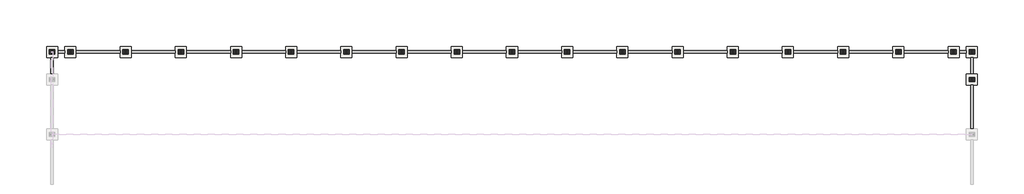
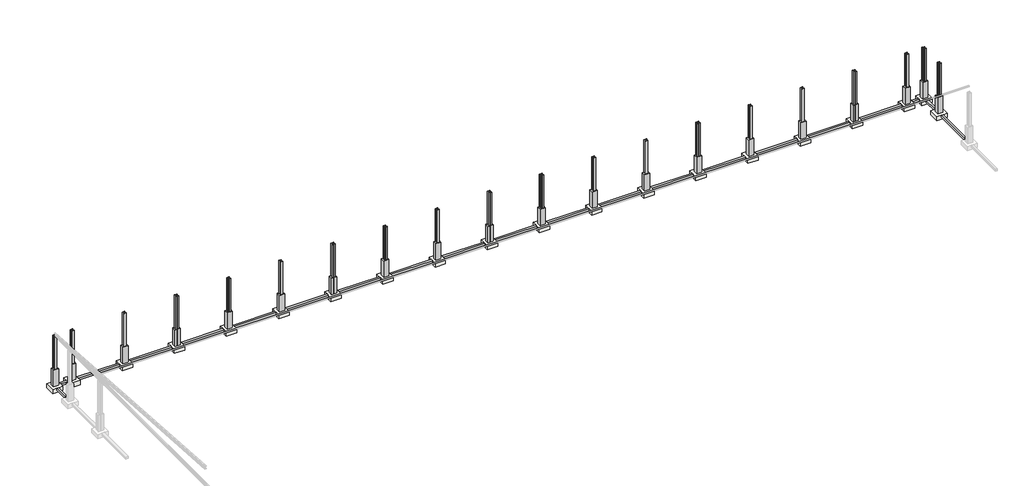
# One storey, part 4 of 4: 40 columns, 21 beams, 20 slabs.
"""IFC4 building model written with IfcOpenShell, lengths in millimetres."""

from ifc_helpers import new_model, si_unit, frame, origin, place, context, project, spatial, polyline, outline, extrude, faceted_brep, transform, mapped, element, save
from components import columns_rectangular_450x600mm_2512dfd8, uc_universal_columns_column_uc305x305x97_76abc542

model = new_model("IFC4")

# Units and contexts
model_context = context("Model", 3, world=origin())
ifc_project = project(units=[si_unit("LENGTHUNIT", "METRE", prefix="MILLI")], contexts=[model_context])

# Site, building, storey
site = spatial("IfcSite", under=ifc_project)
building = spatial("IfcBuilding", under=site)
storey = spatial("IfcBuildingStorey", under=building, Name="Kota 0", Elevation=0.0)

# Beams
placement = place(None, origin())
element("IfcBeam", 1, ObjectType="Concrete-Rectangular Beam : 16 x 32", at=placement, inside=storey, context=model_context, shape_type="SweptSolid", body=[
    extrude(outline(polyline([(90938.6750595, 3433.1828349), (91188.6750595, 3433.1828349), (91188.6750595, -1366.8171651), (90938.6750595, -1366.8171651), (90938.6750595, 3433.1828349)])), frame((0.0, 0.0, -250.0), z_axis=(0.0, 0.0, 1.0), x_axis=(1.0, 0.0, 0.0)), (0.0, 0.0, 1.0), 250.0),
])
element("IfcBeam", 2, ObjectType="Concrete-Rectangular Beam : 16 x 32", at=placement, inside=storey, context=model_context, shape_type="SweptSolid", body=[
    extrude(outline(polyline([(90938.6750595, 6433.1828349), (91188.6750595, 6433.1828349), (91188.6750595, 4633.1828349), (90938.6750595, 4633.1828349), (90938.6750595, 6433.1828349)])), frame((0.0, 0.0, -250.0), z_axis=(0.0, 0.0, 1.0), x_axis=(1.0, 0.0, 0.0)), (0.0, 0.0, 1.0), 250.0),
])
element("IfcBeam", 3, ObjectType="Concrete-Rectangular Beam : 16 x 32", at=placement, inside=storey, context=model_context, shape_type="SweptSolid", body=[
    extrude(outline(polyline([(89663.6750595, 6908.1828349), (89663.6750595, 7158.1828349), (90463.6750595, 7158.1828349), (90463.6750595, 6908.1828349), (89663.6750595, 6908.1828349)])), frame((0.0, 0.0, -250.0), z_axis=(0.0, 0.0, 1.0), x_axis=(1.0, 0.0, 0.0)), (0.0, 0.0, 1.0), 250.0),
])
element("IfcBeam", 4, ObjectType="Concrete-Rectangular Beam : 16 x 32", at=placement, inside=storey, context=model_context, shape_type="SweptSolid", body=[
    extrude(outline(polyline([(83663.6750595, 6908.1828349), (83663.6750595, 7158.1828349), (88463.6750595, 7158.1828349), (88463.6750595, 6908.1828349), (83663.6750595, 6908.1828349)])), frame((0.0, 0.0, -250.0), z_axis=(0.0, 0.0, 1.0), x_axis=(1.0, 0.0, 0.0)), (0.0, 0.0, 1.0), 250.0),
])
element("IfcBeam", 5, ObjectType="Concrete-Rectangular Beam : 16 x 32", at=placement, inside=storey, context=model_context, shape_type="SweptSolid", body=[
    extrude(outline(polyline([(77663.6750595, 6908.1828349), (77663.6750595, 7158.1828349), (82463.6750595, 7158.1828349), (82463.6750595, 6908.1828349), (77663.6750595, 6908.1828349)])), frame((0.0, 0.0, -250.0), z_axis=(0.0, 0.0, 1.0), x_axis=(1.0, 0.0, 0.0)), (0.0, 0.0, 1.0), 250.0),
])
element("IfcBeam", 6, ObjectType="Concrete-Rectangular Beam : 16 x 32", at=placement, inside=storey, context=model_context, shape_type="SweptSolid", body=[
    extrude(outline(polyline([(71663.6750595, 6908.1828349), (71663.6750595, 7158.1828349), (76463.6750595, 7158.1828349), (76463.6750595, 6908.1828349), (71663.6750595, 6908.1828349)])), frame((0.0, 0.0, -250.0), z_axis=(0.0, 0.0, 1.0), x_axis=(1.0, 0.0, 0.0)), (0.0, 0.0, 1.0), 250.0),
])
element("IfcBeam", 7, ObjectType="Concrete-Rectangular Beam : 16 x 32", at=placement, inside=storey, context=model_context, shape_type="SweptSolid", body=[
    extrude(outline(polyline([(65663.6750595, 6908.1828349), (65663.6750595, 7158.1828349), (70463.6750595, 7158.1828349), (70463.6750595, 6908.1828349), (65663.6750595, 6908.1828349)])), frame((0.0, 0.0, -250.0), z_axis=(0.0, 0.0, 1.0), x_axis=(1.0, 0.0, 0.0)), (0.0, 0.0, 1.0), 250.0),
])
element("IfcBeam", 8, ObjectType="Concrete-Rectangular Beam : 16 x 32", at=placement, inside=storey, context=model_context, shape_type="SweptSolid", body=[
    extrude(outline(polyline([(59663.6750595, 6908.1828349), (59663.6750595, 7158.1828349), (64463.6750595, 7158.1828349), (64463.6750595, 6908.1828349), (59663.6750595, 6908.1828349)])), frame((0.0, 0.0, -250.0), z_axis=(0.0, 0.0, 1.0), x_axis=(1.0, 0.0, 0.0)), (0.0, 0.0, 1.0), 250.0),
])
element("IfcBeam", 9, ObjectType="Concrete-Rectangular Beam : 16 x 32", at=placement, inside=storey, context=model_context, shape_type="SweptSolid", body=[
    extrude(outline(polyline([(53663.6750595, 6908.1828349), (53663.6750595, 7158.1828349), (58463.6750595, 7158.1828349), (58463.6750595, 6908.1828349), (53663.6750595, 6908.1828349)])), frame((0.0, 0.0, -250.0), z_axis=(0.0, 0.0, 1.0), x_axis=(1.0, 0.0, 0.0)), (0.0, 0.0, 1.0), 250.0),
])
element("IfcBeam", 10, ObjectType="Concrete-Rectangular Beam : 16 x 32", at=placement, inside=storey, context=model_context, shape_type="SweptSolid", body=[
    extrude(outline(polyline([(47663.6750595, 6908.1828349), (47663.6750595, 7158.1828349), (52463.6750595, 7158.1828349), (52463.6750595, 6908.1828349), (47663.6750595, 6908.1828349)])), frame((0.0, 0.0, -250.0), z_axis=(0.0, 0.0, 1.0), x_axis=(1.0, 0.0, 0.0)), (0.0, 0.0, 1.0), 250.0),
])
element("IfcBeam", 11, ObjectType="Concrete-Rectangular Beam : 16 x 32", at=placement, inside=storey, context=model_context, shape_type="SweptSolid", body=[
    extrude(outline(polyline([(41663.6750595, 6908.1828349), (41663.6750595, 7158.1828349), (46463.6750595, 7158.1828349), (46463.6750595, 6908.1828349), (41663.6750595, 6908.1828349)])), frame((0.0, 0.0, -250.0), z_axis=(0.0, 0.0, 1.0), x_axis=(1.0, 0.0, 0.0)), (0.0, 0.0, 1.0), 250.0),
])
element("IfcBeam", 12, ObjectType="Concrete-Rectangular Beam : 16 x 32", at=placement, inside=storey, context=model_context, shape_type="SweptSolid", body=[
    extrude(outline(polyline([(35663.6750595, 6908.1828349), (35663.6750595, 7158.1828349), (40463.6750595, 7158.1828349), (40463.6750595, 6908.1828349), (35663.6750595, 6908.1828349)])), frame((0.0, 0.0, -250.0), z_axis=(0.0, 0.0, 1.0), x_axis=(1.0, 0.0, 0.0)), (0.0, 0.0, 1.0), 250.0),
])
element("IfcBeam", 13, ObjectType="Concrete-Rectangular Beam : 16 x 32", at=placement, inside=storey, context=model_context, shape_type="SweptSolid", body=[
    extrude(outline(polyline([(29663.6750595, 6908.1828349), (29663.6750595, 7158.1828349), (34463.6750595, 7158.1828349), (34463.6750595, 6908.1828349), (29663.6750595, 6908.1828349)])), frame((0.0, 0.0, -250.0), z_axis=(0.0, 0.0, 1.0), x_axis=(1.0, 0.0, 0.0)), (0.0, 0.0, 1.0), 250.0),
])
element("IfcBeam", 14, ObjectType="Concrete-Rectangular Beam : 16 x 32", at=placement, inside=storey, context=model_context, shape_type="SweptSolid", body=[
    extrude(outline(polyline([(23663.6750595, 6908.1828349), (23663.6750595, 7158.1828349), (28463.6750595, 7158.1828349), (28463.6750595, 6908.1828349), (23663.6750595, 6908.1828349)])), frame((0.0, 0.0, -250.0), z_axis=(0.0, 0.0, 1.0), x_axis=(1.0, 0.0, 0.0)), (0.0, 0.0, 1.0), 250.0),
])
element("IfcBeam", 15, ObjectType="Concrete-Rectangular Beam : 16 x 32", at=placement, inside=storey, context=model_context, shape_type="SweptSolid", body=[
    extrude(outline(polyline([(17663.6750595, 6908.1828349), (17663.6750595, 7158.1828349), (22463.6750595, 7158.1828349), (22463.6750595, 6908.1828349), (17663.6750595, 6908.1828349)])), frame((0.0, 0.0, -250.0), z_axis=(0.0, 0.0, 1.0), x_axis=(1.0, 0.0, 0.0)), (0.0, 0.0, 1.0), 250.0),
])
element("IfcBeam", 16, ObjectType="Concrete-Rectangular Beam : 16 x 32", at=placement, inside=storey, context=model_context, shape_type="SweptSolid", body=[
    extrude(outline(polyline([(11663.6750595, 6908.1828349), (11663.6750595, 7158.1828349), (16463.6750595, 7158.1828349), (16463.6750595, 6908.1828349), (11663.6750595, 6908.1828349)])), frame((0.0, 0.0, -250.0), z_axis=(0.0, 0.0, 1.0), x_axis=(1.0, 0.0, 0.0)), (0.0, 0.0, 1.0), 250.0),
])
element("IfcBeam", 17, ObjectType="Concrete-Rectangular Beam : 16 x 32", at=placement, inside=storey, context=model_context, shape_type="SweptSolid", body=[
    extrude(outline(polyline([(5663.6750595, 6908.1828349), (5663.6750595, 7158.1828349), (10463.6750595, 7158.1828349), (10463.6750595, 6908.1828349), (5663.6750595, 6908.1828349)])), frame((0.0, 0.0, -250.0), z_axis=(0.0, 0.0, 1.0), x_axis=(1.0, 0.0, 0.0)), (0.0, 0.0, 1.0), 250.0),
])
element("IfcBeam", 18, ObjectType="Concrete-Rectangular Beam : 16 x 32", at=placement, inside=storey, context=model_context, shape_type="SweptSolid", body=[
    extrude(outline(polyline([(-336.3249405, 6908.1828349), (-336.3249405, 7158.1828349), (4463.6750595, 7158.1828349), (4463.6750595, 6908.1828349), (-336.3249405, 6908.1828349)])), frame((0.0, 0.0, -250.0), z_axis=(0.0, 0.0, 1.0), x_axis=(1.0, 0.0, 0.0)), (0.0, 0.0, 1.0), 250.0),
])
element("IfcBeam", 19, ObjectType="Concrete-Rectangular Beam : 16 x 32", at=placement, inside=storey, context=model_context, shape_type="SweptSolid", body=[
    extrude(outline(polyline([(-6336.3249405, 6908.1828349), (-6336.3249405, 7158.1828349), (-1536.3249405, 7158.1828349), (-1536.3249405, 6908.1828349), (-6336.3249405, 6908.1828349)])), frame((0.0, 0.0, -250.0), z_axis=(0.0, 0.0, 1.0), x_axis=(1.0, 0.0, 0.0)), (0.0, 0.0, 1.0), 250.0),
])
element("IfcBeam", 20, ObjectType="Concrete-Rectangular Beam : 16 x 32", at=placement, inside=storey, context=model_context, shape_type="SweptSolid", body=[
    extrude(outline(polyline([(-7536.3249405, 7158.1828349), (-7536.3249405, 6908.1828349), (-8336.3249405, 6908.1828349), (-8336.3249405, 7158.1828349), (-7536.3249405, 7158.1828349)])), frame((0.0, 0.0, -250.0), z_axis=(0.0, 0.0, 1.0), x_axis=(1.0, 0.0, 0.0)), (0.0, 0.0, 1.0), 250.0),
])
element("IfcBeam", 21, ObjectType="Concrete-Rectangular Beam : 16 x 32", at=placement, inside=storey, context=model_context, shape_type="SweptSolid", body=[
    extrude(outline(polyline([(-9061.3249405, 6433.1828349), (-8811.3249405, 6433.1828349), (-8811.3249405, 4633.1828349), (-9061.3249405, 4633.1828349), (-9061.3249405, 6433.1828349)])), frame((0.0, 0.0, -250.0), z_axis=(0.0, 0.0, 1.0), x_axis=(1.0, 0.0, 0.0)), (0.0, 0.0, 1.0), 250.0),
])

# Columns
columns_rectangular_450x600mm_shape = columns_rectangular_450x600mm_2512dfd8(model_context)
element("IfcColumn", 22, ObjectType="Columns_Rectangular : 450x600mm", at=placement, inside=storey, context=model_context, shape_type="MappedRepresentation", body=[
    mapped(columns_rectangular_450x600mm_shape, transform((-8936.3249405, 7033.1828349, 0.0), x_axis=(1.0, 0.0, 0.0), y_axis=(0.0, 1.0, 0.0), z_axis=(0.0, 0.0, 1.0))),
])
element("IfcColumn", 23, ObjectType="Columns_Rectangular : 450x600mm", at=placement, inside=storey, context=model_context, shape_type="MappedRepresentation", body=[
    mapped(columns_rectangular_450x600mm_shape, transform((-6936.3249405, 7033.1828349, 0.0), x_axis=(1.0, 0.0, 0.0), y_axis=(0.0, 1.0, 0.0), z_axis=(0.0, 0.0, 1.0))),
])
element("IfcColumn", 24, ObjectType="Columns_Rectangular : 450x600mm", at=placement, inside=storey, context=model_context, shape_type="MappedRepresentation", body=[
    mapped(columns_rectangular_450x600mm_shape, transform((-936.3249405, 7033.1828349, 0.0), x_axis=(1.0, 0.0, 0.0), y_axis=(0.0, 1.0, 0.0), z_axis=(0.0, 0.0, 1.0))),
])
element("IfcColumn", 25, ObjectType="Columns_Rectangular : 450x600mm", at=placement, inside=storey, context=model_context, shape_type="MappedRepresentation", body=[
    mapped(columns_rectangular_450x600mm_shape, transform((5063.6750595, 7033.1828349, 0.0), x_axis=(1.0, 0.0, 0.0), y_axis=(0.0, 1.0, 0.0), z_axis=(0.0, 0.0, 1.0))),
])
element("IfcColumn", 26, ObjectType="Columns_Rectangular : 450x600mm", at=placement, inside=storey, context=model_context, shape_type="MappedRepresentation", body=[
    mapped(columns_rectangular_450x600mm_shape, transform((11063.6750595, 7033.1828349, 0.0), x_axis=(1.0, 0.0, 0.0), y_axis=(0.0, 1.0, 0.0), z_axis=(0.0, 0.0, 1.0))),
])
element("IfcColumn", 27, ObjectType="Columns_Rectangular : 450x600mm", at=placement, inside=storey, context=model_context, shape_type="MappedRepresentation", body=[
    mapped(columns_rectangular_450x600mm_shape, transform((17063.6750595, 7033.1828349, 0.0), x_axis=(1.0, 0.0, 0.0), y_axis=(0.0, 1.0, 0.0), z_axis=(0.0, 0.0, 1.0))),
])
element("IfcColumn", 28, ObjectType="Columns_Rectangular : 450x600mm", at=placement, inside=storey, context=model_context, shape_type="MappedRepresentation", body=[
    mapped(columns_rectangular_450x600mm_shape, transform((23063.6750595, 7033.1828349, 0.0), x_axis=(1.0, 0.0, 0.0), y_axis=(0.0, 1.0, 0.0), z_axis=(0.0, 0.0, 1.0))),
])
element("IfcColumn", 29, ObjectType="Columns_Rectangular : 450x600mm", at=placement, inside=storey, context=model_context, shape_type="MappedRepresentation", body=[
    mapped(columns_rectangular_450x600mm_shape, transform((29063.6750595, 7033.1828349, 0.0), x_axis=(1.0, 0.0, 0.0), y_axis=(0.0, 1.0, 0.0), z_axis=(0.0, 0.0, 1.0))),
])
element("IfcColumn", 30, ObjectType="Columns_Rectangular : 450x600mm", at=placement, inside=storey, context=model_context, shape_type="MappedRepresentation", body=[
    mapped(columns_rectangular_450x600mm_shape, transform((35063.6750595, 7033.1828349, 0.0), x_axis=(1.0, 0.0, 0.0), y_axis=(0.0, 1.0, 0.0), z_axis=(0.0, 0.0, 1.0))),
])
element("IfcColumn", 31, ObjectType="Columns_Rectangular : 450x600mm", at=placement, inside=storey, context=model_context, shape_type="MappedRepresentation", body=[
    mapped(columns_rectangular_450x600mm_shape, transform((41063.6750595, 7033.1828349, 0.0), x_axis=(1.0, 0.0, 0.0), y_axis=(0.0, 1.0, 0.0), z_axis=(0.0, 0.0, 1.0))),
])
element("IfcColumn", 32, ObjectType="Columns_Rectangular : 450x600mm", at=placement, inside=storey, context=model_context, shape_type="MappedRepresentation", body=[
    mapped(columns_rectangular_450x600mm_shape, transform((47063.6750595, 7033.1828349, 0.0), x_axis=(1.0, 0.0, 0.0), y_axis=(0.0, 1.0, 0.0), z_axis=(0.0, 0.0, 1.0))),
])
element("IfcColumn", 33, ObjectType="Columns_Rectangular : 450x600mm", at=placement, inside=storey, context=model_context, shape_type="MappedRepresentation", body=[
    mapped(columns_rectangular_450x600mm_shape, transform((53063.6750595, 7033.1828349, 0.0), x_axis=(1.0, 0.0, 0.0), y_axis=(0.0, 1.0, 0.0), z_axis=(0.0, 0.0, 1.0))),
])
element("IfcColumn", 34, ObjectType="Columns_Rectangular : 450x600mm", at=placement, inside=storey, context=model_context, shape_type="MappedRepresentation", body=[
    mapped(columns_rectangular_450x600mm_shape, transform((59063.6750595, 7033.1828349, 0.0), x_axis=(1.0, 0.0, 0.0), y_axis=(0.0, 1.0, 0.0), z_axis=(0.0, 0.0, 1.0))),
])
element("IfcColumn", 35, ObjectType="Columns_Rectangular : 450x600mm", at=placement, inside=storey, context=model_context, shape_type="MappedRepresentation", body=[
    mapped(columns_rectangular_450x600mm_shape, transform((65063.6750595, 7033.1828349, 0.0), x_axis=(1.0, 0.0, 0.0), y_axis=(0.0, 1.0, 0.0), z_axis=(0.0, 0.0, 1.0))),
])
element("IfcColumn", 36, ObjectType="Columns_Rectangular : 450x600mm", at=placement, inside=storey, context=model_context, shape_type="MappedRepresentation", body=[
    mapped(columns_rectangular_450x600mm_shape, transform((71063.6750595, 7033.1828349, 0.0), x_axis=(1.0, 0.0, 0.0), y_axis=(0.0, 1.0, 0.0), z_axis=(0.0, 0.0, 1.0))),
])
element("IfcColumn", 37, ObjectType="Columns_Rectangular : 450x600mm", at=placement, inside=storey, context=model_context, shape_type="MappedRepresentation", body=[
    mapped(columns_rectangular_450x600mm_shape, transform((77063.6750595, 7033.1828349, 0.0), x_axis=(1.0, 0.0, 0.0), y_axis=(0.0, 1.0, 0.0), z_axis=(0.0, 0.0, 1.0))),
])
element("IfcColumn", 38, ObjectType="Columns_Rectangular : 450x600mm", at=placement, inside=storey, context=model_context, shape_type="MappedRepresentation", body=[
    mapped(columns_rectangular_450x600mm_shape, transform((83063.6750595, 7033.1828349, 0.0), x_axis=(1.0, 0.0, 0.0), y_axis=(0.0, 1.0, 0.0), z_axis=(0.0, 0.0, 1.0))),
])
element("IfcColumn", 39, ObjectType="Columns_Rectangular : 450x600mm", at=placement, inside=storey, context=model_context, shape_type="MappedRepresentation", body=[
    mapped(columns_rectangular_450x600mm_shape, transform((89063.6750595, 7033.1828349, 0.0), x_axis=(1.0, 0.0, 0.0), y_axis=(0.0, 1.0, 0.0), z_axis=(0.0, 0.0, 1.0))),
])
element("IfcColumn", 40, ObjectType="Columns_Rectangular : 450x600mm", at=placement, inside=storey, context=model_context, shape_type="MappedRepresentation", body=[
    mapped(columns_rectangular_450x600mm_shape, transform((91063.6750595, 7033.1828349, 0.0), x_axis=(1.0, 0.0, 0.0), y_axis=(0.0, 1.0, 0.0), z_axis=(0.0, 0.0, 1.0))),
])
element("IfcColumn", 41, ObjectType="Columns_Rectangular : 450x600mm", at=placement, inside=storey, context=model_context, shape_type="MappedRepresentation", body=[
    mapped(columns_rectangular_450x600mm_shape, transform((91063.6750595, 4033.1828349, 0.0), x_axis=(1.0, 0.0, 0.0), y_axis=(0.0, 1.0, 0.0), z_axis=(0.0, 0.0, 1.0))),
])
uc_universal_columns_column_uc305x305x97_shape = uc_universal_columns_column_uc305x305x97_76abc542(model_context)
element("IfcColumn", 42, ObjectType="UC-Universal Columns-Column : UC305x305x97", at=placement, inside=storey, context=model_context, shape_type="MappedRepresentation", body=[
    mapped(uc_universal_columns_column_uc305x305x97_shape, transform((-6936.3249405, 7033.1828349, 0.0), x_axis=(1.0, 0.0, 0.0), y_axis=(0.0, 1.0, 0.0), z_axis=(0.0, 0.0, 1.0))),
])
element("IfcColumn", 43, ObjectType="UC-Universal Columns-Column : UC305x305x97", at=placement, inside=storey, context=model_context, shape_type="MappedRepresentation", body=[
    mapped(uc_universal_columns_column_uc305x305x97_shape, transform((-936.3249405, 7033.1828349, 0.0), x_axis=(1.0, 0.0, 0.0), y_axis=(0.0, 1.0, 0.0), z_axis=(0.0, 0.0, 1.0))),
])
element("IfcColumn", 44, ObjectType="UC-Universal Columns-Column : UC305x305x97", at=placement, inside=storey, context=model_context, shape_type="MappedRepresentation", body=[
    mapped(uc_universal_columns_column_uc305x305x97_shape, transform((5063.6750595, 7033.1828349, 0.0), x_axis=(1.0, 0.0, 0.0), y_axis=(0.0, 1.0, 0.0), z_axis=(0.0, 0.0, 1.0))),
])
element("IfcColumn", 45, ObjectType="UC-Universal Columns-Column : UC305x305x97", at=placement, inside=storey, context=model_context, shape_type="MappedRepresentation", body=[
    mapped(uc_universal_columns_column_uc305x305x97_shape, transform((11063.6750595, 7033.1828349, 0.0), x_axis=(1.0, 0.0, 0.0), y_axis=(0.0, 1.0, 0.0), z_axis=(0.0, 0.0, 1.0))),
])
element("IfcColumn", 46, ObjectType="UC-Universal Columns-Column : UC305x305x97", at=placement, inside=storey, context=model_context, shape_type="MappedRepresentation", body=[
    mapped(uc_universal_columns_column_uc305x305x97_shape, transform((17063.6750595, 7033.1828349, 0.0), x_axis=(1.0, 0.0, 0.0), y_axis=(0.0, 1.0, 0.0), z_axis=(0.0, 0.0, 1.0))),
])
element("IfcColumn", 47, ObjectType="UC-Universal Columns-Column : UC305x305x97", at=placement, inside=storey, context=model_context, shape_type="MappedRepresentation", body=[
    mapped(uc_universal_columns_column_uc305x305x97_shape, transform((23063.6750595, 7033.1828349, 0.0), x_axis=(1.0, 0.0, 0.0), y_axis=(0.0, 1.0, 0.0), z_axis=(0.0, 0.0, 1.0))),
])
element("IfcColumn", 48, ObjectType="UC-Universal Columns-Column : UC305x305x97", at=placement, inside=storey, context=model_context, shape_type="MappedRepresentation", body=[
    mapped(uc_universal_columns_column_uc305x305x97_shape, transform((29063.6750595, 7033.1828349, 0.0), x_axis=(1.0, 0.0, 0.0), y_axis=(0.0, 1.0, 0.0), z_axis=(0.0, 0.0, 1.0))),
])
element("IfcColumn", 49, ObjectType="UC-Universal Columns-Column : UC305x305x97", at=placement, inside=storey, context=model_context, shape_type="MappedRepresentation", body=[
    mapped(uc_universal_columns_column_uc305x305x97_shape, transform((35063.6750595, 7033.1828349, 0.0), x_axis=(1.0, 0.0, 0.0), y_axis=(0.0, 1.0, 0.0), z_axis=(0.0, 0.0, 1.0))),
])
element("IfcColumn", 50, ObjectType="UC-Universal Columns-Column : UC305x305x97", at=placement, inside=storey, context=model_context, shape_type="MappedRepresentation", body=[
    mapped(uc_universal_columns_column_uc305x305x97_shape, transform((41063.6750595, 7033.1828349, 0.0), x_axis=(1.0, 0.0, 0.0), y_axis=(0.0, 1.0, 0.0), z_axis=(0.0, 0.0, 1.0))),
])
element("IfcColumn", 51, ObjectType="UC-Universal Columns-Column : UC305x305x97", at=placement, inside=storey, context=model_context, shape_type="MappedRepresentation", body=[
    mapped(uc_universal_columns_column_uc305x305x97_shape, transform((47063.6750595, 7033.1828349, 0.0), x_axis=(1.0, 0.0, 0.0), y_axis=(0.0, 1.0, 0.0), z_axis=(0.0, 0.0, 1.0))),
])
element("IfcColumn", 52, ObjectType="UC-Universal Columns-Column : UC305x305x97", at=placement, inside=storey, context=model_context, shape_type="MappedRepresentation", body=[
    mapped(uc_universal_columns_column_uc305x305x97_shape, transform((53063.6750595, 7033.1828349, 0.0), x_axis=(1.0, 0.0, 0.0), y_axis=(0.0, 1.0, 0.0), z_axis=(0.0, 0.0, 1.0))),
])
element("IfcColumn", 53, ObjectType="UC-Universal Columns-Column : UC305x305x97", at=placement, inside=storey, context=model_context, shape_type="MappedRepresentation", body=[
    mapped(uc_universal_columns_column_uc305x305x97_shape, transform((59063.6750595, 7033.1828349, 0.0), x_axis=(1.0, 0.0, 0.0), y_axis=(0.0, 1.0, 0.0), z_axis=(0.0, 0.0, 1.0))),
])
element("IfcColumn", 54, ObjectType="UC-Universal Columns-Column : UC305x305x97", at=placement, inside=storey, context=model_context, shape_type="MappedRepresentation", body=[
    mapped(uc_universal_columns_column_uc305x305x97_shape, transform((65063.6750595, 7033.1828349, 0.0), x_axis=(1.0, 0.0, 0.0), y_axis=(0.0, 1.0, 0.0), z_axis=(0.0, 0.0, 1.0))),
])
element("IfcColumn", 55, ObjectType="UC-Universal Columns-Column : UC305x305x97", at=placement, inside=storey, context=model_context, shape_type="MappedRepresentation", body=[
    mapped(uc_universal_columns_column_uc305x305x97_shape, transform((71063.6750595, 7033.1828349, 0.0), x_axis=(1.0, 0.0, 0.0), y_axis=(0.0, 1.0, 0.0), z_axis=(0.0, 0.0, 1.0))),
])
element("IfcColumn", 56, ObjectType="UC-Universal Columns-Column : UC305x305x97", at=placement, inside=storey, context=model_context, shape_type="MappedRepresentation", body=[
    mapped(uc_universal_columns_column_uc305x305x97_shape, transform((77063.6750595, 7033.1828349, 0.0), x_axis=(1.0, 0.0, 0.0), y_axis=(0.0, 1.0, 0.0), z_axis=(0.0, 0.0, 1.0))),
])
element("IfcColumn", 57, ObjectType="UC-Universal Columns-Column : UC305x305x97", at=placement, inside=storey, context=model_context, shape_type="MappedRepresentation", body=[
    mapped(uc_universal_columns_column_uc305x305x97_shape, transform((83063.6750595, 7033.1828349, 0.0), x_axis=(1.0, 0.0, 0.0), y_axis=(0.0, 1.0, 0.0), z_axis=(0.0, 0.0, 1.0))),
])
element("IfcColumn", 58, ObjectType="UC-Universal Columns-Column : UC305x305x97", at=placement, inside=storey, context=model_context, shape_type="MappedRepresentation", body=[
    mapped(uc_universal_columns_column_uc305x305x97_shape, transform((89063.6750595, 7033.1828349, 0.0), x_axis=(1.0, 0.0, 0.0), y_axis=(0.0, 1.0, 0.0), z_axis=(0.0, 0.0, 1.0))),
])
element("IfcColumn", 59, ObjectType="UC-Universal Columns-Column : UC305x305x97", at=placement, inside=storey, context=model_context, shape_type="MappedRepresentation", body=[
    mapped(uc_universal_columns_column_uc305x305x97_shape, transform((91063.6750595, 7033.1828349, 0.0), x_axis=(1.0, 0.0, 0.0), y_axis=(0.0, 1.0, 0.0), z_axis=(0.0, 0.0, 1.0))),
])
element("IfcColumn", 60, ObjectType="UC-Universal Columns-Column : UC305x305x97", at=placement, inside=storey, context=model_context, shape_type="MappedRepresentation", body=[
    mapped(uc_universal_columns_column_uc305x305x97_shape, transform((-8936.3249405, 7033.1828349, 0.0), x_axis=(1.0, 0.0, 0.0), y_axis=(0.0, 1.0, 0.0), z_axis=(0.0, 0.0, 1.0))),
])
element("IfcColumn", 61, ObjectType="UC-Universal Columns-Column : UC305x305x97", at=placement, inside=storey, context=model_context, shape_type="MappedRepresentation", body=[
    mapped(uc_universal_columns_column_uc305x305x97_shape, transform((91063.6750595, 4033.1828349, 0.0), x_axis=(1.0, 0.0, 0.0), y_axis=(0.0, 1.0, 0.0), z_axis=(0.0, 0.0, 1.0))),
])

# Slabs
element("IfcSlab", 62, ObjectType="Footing-Rectangular.0001 : 72\" x 48\" x 18\"", at=placement, inside=storey, context=model_context, shape_type="Brep", body=[
    faceted_brep([(-6336.3249405, 7633.1828349, 0.0), (-7536.3249405, 7633.1828349, 0.0), (-7536.3249405, 7158.1828349, 0.0), (-7536.3249405, 6908.1828349, 0.0), (-7536.3249405, 6433.1828349, 0.0), (-6336.3249405, 6433.1828349, 0.0), (-6336.3249405, 6908.1828349, 0.0), (-6336.3249405, 7158.1828349, 0.0), (-6336.3249405, 7633.1828349, -500.0), (-6336.3249405, 6433.1828349, -500.0), (-7536.3249405, 6433.1828349, -500.0), (-7536.3249405, 7633.1828349, -500.0)], [[[0, 1, 2, 3, 4, 5, 6, 7]], [[8, 9, 10, 11]], [[1, 0, 8, 11]], [[4, 3, 2, 1, 11, 10]], [[5, 4, 10, 9]], [[0, 7, 6, 5, 9, 8]]]),
])
element("IfcSlab", 63, ObjectType="Footing-Rectangular.0001 : 72\" x 48\" x 18\"", at=placement, inside=storey, context=model_context, shape_type="Brep", body=[
    faceted_brep([(-336.3249405, 7633.1828349, 0.0), (-1536.3249405, 7633.1828349, 0.0), (-1536.3249405, 7158.1828349, 0.0), (-1536.3249405, 6908.1828349, 0.0), (-1536.3249405, 6433.1828349, 0.0), (-336.3249405, 6433.1828349, 0.0), (-336.3249405, 6908.1828349, 0.0), (-336.3249405, 7158.1828349, 0.0), (-336.3249405, 7633.1828349, -500.0), (-336.3249405, 6433.1828349, -500.0), (-1536.3249405, 6433.1828349, -500.0), (-1536.3249405, 7633.1828349, -500.0)], [[[0, 1, 2, 3, 4, 5, 6, 7]], [[8, 9, 10, 11]], [[1, 0, 8, 11]], [[4, 3, 2, 1, 11, 10]], [[5, 4, 10, 9]], [[0, 7, 6, 5, 9, 8]]]),
])
element("IfcSlab", 64, ObjectType="Footing-Rectangular.0001 : 72\" x 48\" x 18\"", at=placement, inside=storey, context=model_context, shape_type="Brep", body=[
    faceted_brep([(-8336.3249405, 7633.1828349, 0.0), (-9536.3249405, 7633.1828349, 0.0), (-9536.3249405, 6433.1828349, 0.0), (-9061.3249405, 6433.1828349, 0.0), (-8811.3249405, 6433.1828349, 0.0), (-8336.3249405, 6433.1828349, 0.0), (-8336.3249405, 6908.1828349, 0.0), (-8336.3249405, 7158.1828349, 0.0), (-8336.3249405, 7633.1828349, -500.0), (-8336.3249405, 6433.1828349, -500.0), (-9536.3249405, 6433.1828349, -500.0), (-9536.3249405, 7633.1828349, -500.0)], [[[0, 1, 2, 3, 4, 5, 6, 7]], [[8, 9, 10, 11]], [[1, 0, 8, 11]], [[2, 1, 11, 10]], [[5, 4, 3, 2, 10, 9]], [[0, 7, 6, 5, 9, 8]]]),
])
element("IfcSlab", 65, ObjectType="Footing-Rectangular.0001 : 72\" x 48\" x 18\"", at=placement, inside=storey, context=model_context, shape_type="Brep", body=[
    faceted_brep([(5663.6750595, 7633.1828349, 0.0), (4463.6750595, 7633.1828349, 0.0), (4463.6750595, 7158.1828349, 0.0), (4463.6750595, 6908.1828349, 0.0), (4463.6750595, 6433.1828349, 0.0), (5663.6750595, 6433.1828349, 0.0), (5663.6750595, 6908.1828349, 0.0), (5663.6750595, 7158.1828349, 0.0), (5663.6750595, 7633.1828349, -500.0), (5663.6750595, 6433.1828349, -500.0), (4463.6750595, 6433.1828349, -500.0), (4463.6750595, 7633.1828349, -500.0)], [[[0, 1, 2, 3, 4, 5, 6, 7]], [[8, 9, 10, 11]], [[1, 0, 8, 11]], [[4, 3, 2, 1, 11, 10]], [[5, 4, 10, 9]], [[0, 7, 6, 5, 9, 8]]]),
])
element("IfcSlab", 66, ObjectType="Footing-Rectangular.0001 : 72\" x 48\" x 18\"", at=placement, inside=storey, context=model_context, shape_type="Brep", body=[
    faceted_brep([(11663.6750595, 7633.1828349, 0.0), (10463.6750595, 7633.1828349, 0.0), (10463.6750595, 7158.1828349, 0.0), (10463.6750595, 6908.1828349, 0.0), (10463.6750595, 6433.1828349, 0.0), (11663.6750595, 6433.1828349, 0.0), (11663.6750595, 6908.1828349, 0.0), (11663.6750595, 7158.1828349, 0.0), (11663.6750595, 7633.1828349, -500.0), (11663.6750595, 6433.1828349, -500.0), (10463.6750595, 6433.1828349, -500.0), (10463.6750595, 7633.1828349, -500.0)], [[[0, 1, 2, 3, 4, 5, 6, 7]], [[8, 9, 10, 11]], [[1, 0, 8, 11]], [[4, 3, 2, 1, 11, 10]], [[5, 4, 10, 9]], [[0, 7, 6, 5, 9, 8]]]),
])
element("IfcSlab", 67, ObjectType="Footing-Rectangular.0001 : 72\" x 48\" x 18\"", at=placement, inside=storey, context=model_context, shape_type="Brep", body=[
    faceted_brep([(17663.6750595, 7633.1828349, 0.0), (16463.6750595, 7633.1828349, 0.0), (16463.6750595, 7158.1828349, 0.0), (16463.6750595, 6908.1828349, 0.0), (16463.6750595, 6433.1828349, 0.0), (17663.6750595, 6433.1828349, 0.0), (17663.6750595, 6908.1828349, 0.0), (17663.6750595, 7158.1828349, 0.0), (17663.6750595, 7633.1828349, -500.0), (17663.6750595, 6433.1828349, -500.0), (16463.6750595, 6433.1828349, -500.0), (16463.6750595, 7633.1828349, -500.0)], [[[0, 1, 2, 3, 4, 5, 6, 7]], [[8, 9, 10, 11]], [[1, 0, 8, 11]], [[4, 3, 2, 1, 11, 10]], [[5, 4, 10, 9]], [[0, 7, 6, 5, 9, 8]]]),
])
element("IfcSlab", 68, ObjectType="Footing-Rectangular.0001 : 72\" x 48\" x 18\"", at=placement, inside=storey, context=model_context, shape_type="Brep", body=[
    faceted_brep([(23663.6750595, 7633.1828349, 0.0), (22463.6750595, 7633.1828349, 0.0), (22463.6750595, 7158.1828349, 0.0), (22463.6750595, 6908.1828349, 0.0), (22463.6750595, 6433.1828349, 0.0), (23663.6750595, 6433.1828349, 0.0), (23663.6750595, 6908.1828349, 0.0), (23663.6750595, 7158.1828349, 0.0), (23663.6750595, 7633.1828349, -500.0), (23663.6750595, 6433.1828349, -500.0), (22463.6750595, 6433.1828349, -500.0), (22463.6750595, 7633.1828349, -500.0)], [[[0, 1, 2, 3, 4, 5, 6, 7]], [[8, 9, 10, 11]], [[1, 0, 8, 11]], [[4, 3, 2, 1, 11, 10]], [[5, 4, 10, 9]], [[0, 7, 6, 5, 9, 8]]]),
])
element("IfcSlab", 69, ObjectType="Footing-Rectangular.0001 : 72\" x 48\" x 18\"", at=placement, inside=storey, context=model_context, shape_type="Brep", body=[
    faceted_brep([(29663.6750595, 7633.1828349, 0.0), (28463.6750595, 7633.1828349, 0.0), (28463.6750595, 7158.1828349, 0.0), (28463.6750595, 6908.1828349, 0.0), (28463.6750595, 6433.1828349, 0.0), (29663.6750595, 6433.1828349, 0.0), (29663.6750595, 6908.1828349, 0.0), (29663.6750595, 7158.1828349, 0.0), (29663.6750595, 7633.1828349, -500.0), (29663.6750595, 6433.1828349, -500.0), (28463.6750595, 6433.1828349, -500.0), (28463.6750595, 7633.1828349, -500.0)], [[[0, 1, 2, 3, 4, 5, 6, 7]], [[8, 9, 10, 11]], [[1, 0, 8, 11]], [[4, 3, 2, 1, 11, 10]], [[5, 4, 10, 9]], [[0, 7, 6, 5, 9, 8]]]),
])
element("IfcSlab", 70, ObjectType="Footing-Rectangular.0001 : 72\" x 48\" x 18\"", at=placement, inside=storey, context=model_context, shape_type="Brep", body=[
    faceted_brep([(35663.6750595, 7633.1828349, 0.0), (34463.6750595, 7633.1828349, 0.0), (34463.6750595, 7158.1828349, 0.0), (34463.6750595, 6908.1828349, 0.0), (34463.6750595, 6433.1828349, 0.0), (35663.6750595, 6433.1828349, 0.0), (35663.6750595, 6908.1828349, 0.0), (35663.6750595, 7158.1828349, 0.0), (35663.6750595, 7633.1828349, -500.0), (35663.6750595, 6433.1828349, -500.0), (34463.6750595, 6433.1828349, -500.0), (34463.6750595, 7633.1828349, -500.0)], [[[0, 1, 2, 3, 4, 5, 6, 7]], [[8, 9, 10, 11]], [[1, 0, 8, 11]], [[4, 3, 2, 1, 11, 10]], [[5, 4, 10, 9]], [[0, 7, 6, 5, 9, 8]]]),
])
element("IfcSlab", 71, ObjectType="Footing-Rectangular.0001 : 72\" x 48\" x 18\"", at=placement, inside=storey, context=model_context, shape_type="Brep", body=[
    faceted_brep([(41663.6750595, 7633.1828349, 0.0), (40463.6750595, 7633.1828349, 0.0), (40463.6750595, 7158.1828349, 0.0), (40463.6750595, 6908.1828349, 0.0), (40463.6750595, 6433.1828349, 0.0), (41663.6750595, 6433.1828349, 0.0), (41663.6750595, 6908.1828349, 0.0), (41663.6750595, 7158.1828349, 0.0), (41663.6750595, 7633.1828349, -500.0), (41663.6750595, 6433.1828349, -500.0), (40463.6750595, 6433.1828349, -500.0), (40463.6750595, 7633.1828349, -500.0)], [[[0, 1, 2, 3, 4, 5, 6, 7]], [[8, 9, 10, 11]], [[1, 0, 8, 11]], [[4, 3, 2, 1, 11, 10]], [[5, 4, 10, 9]], [[0, 7, 6, 5, 9, 8]]]),
])
element("IfcSlab", 72, ObjectType="Footing-Rectangular.0001 : 72\" x 48\" x 18\"", at=placement, inside=storey, context=model_context, shape_type="Brep", body=[
    faceted_brep([(47663.6750595, 7633.1828349, 0.0), (46463.6750595, 7633.1828349, 0.0), (46463.6750595, 7158.1828349, 0.0), (46463.6750595, 6908.1828349, 0.0), (46463.6750595, 6433.1828349, 0.0), (47663.6750595, 6433.1828349, 0.0), (47663.6750595, 6908.1828349, 0.0), (47663.6750595, 7158.1828349, 0.0), (47663.6750595, 7633.1828349, -500.0), (47663.6750595, 6433.1828349, -500.0), (46463.6750595, 6433.1828349, -500.0), (46463.6750595, 7633.1828349, -500.0)], [[[0, 1, 2, 3, 4, 5, 6, 7]], [[8, 9, 10, 11]], [[1, 0, 8, 11]], [[4, 3, 2, 1, 11, 10]], [[5, 4, 10, 9]], [[0, 7, 6, 5, 9, 8]]]),
])
element("IfcSlab", 73, ObjectType="Footing-Rectangular.0001 : 72\" x 48\" x 18\"", at=placement, inside=storey, context=model_context, shape_type="Brep", body=[
    faceted_brep([(53663.6750595, 7633.1828349, 0.0), (52463.6750595, 7633.1828349, 0.0), (52463.6750595, 7158.1828349, 0.0), (52463.6750595, 6908.1828349, 0.0), (52463.6750595, 6433.1828349, 0.0), (53663.6750595, 6433.1828349, 0.0), (53663.6750595, 6908.1828349, 0.0), (53663.6750595, 7158.1828349, 0.0), (53663.6750595, 7633.1828349, -500.0), (53663.6750595, 6433.1828349, -500.0), (52463.6750595, 6433.1828349, -500.0), (52463.6750595, 7633.1828349, -500.0)], [[[0, 1, 2, 3, 4, 5, 6, 7]], [[8, 9, 10, 11]], [[1, 0, 8, 11]], [[4, 3, 2, 1, 11, 10]], [[5, 4, 10, 9]], [[0, 7, 6, 5, 9, 8]]]),
])
element("IfcSlab", 74, ObjectType="Footing-Rectangular.0001 : 72\" x 48\" x 18\"", at=placement, inside=storey, context=model_context, shape_type="Brep", body=[
    faceted_brep([(59663.6750595, 7633.1828349, 0.0), (58463.6750595, 7633.1828349, 0.0), (58463.6750595, 7158.1828349, 0.0), (58463.6750595, 6908.1828349, 0.0), (58463.6750595, 6433.1828349, 0.0), (59663.6750595, 6433.1828349, 0.0), (59663.6750595, 6908.1828349, 0.0), (59663.6750595, 7158.1828349, 0.0), (59663.6750595, 7633.1828349, -500.0), (59663.6750595, 6433.1828349, -500.0), (58463.6750595, 6433.1828349, -500.0), (58463.6750595, 7633.1828349, -500.0)], [[[0, 1, 2, 3, 4, 5, 6, 7]], [[8, 9, 10, 11]], [[1, 0, 8, 11]], [[4, 3, 2, 1, 11, 10]], [[5, 4, 10, 9]], [[0, 7, 6, 5, 9, 8]]]),
])
element("IfcSlab", 75, ObjectType="Footing-Rectangular.0001 : 72\" x 48\" x 18\"", at=placement, inside=storey, context=model_context, shape_type="Brep", body=[
    faceted_brep([(65663.6750595, 7633.1828349, 0.0), (64463.6750595, 7633.1828349, 0.0), (64463.6750595, 7158.1828349, 0.0), (64463.6750595, 6908.1828349, 0.0), (64463.6750595, 6433.1828349, 0.0), (65663.6750595, 6433.1828349, 0.0), (65663.6750595, 6908.1828349, 0.0), (65663.6750595, 7158.1828349, 0.0), (65663.6750595, 7633.1828349, -500.0), (65663.6750595, 6433.1828349, -500.0), (64463.6750595, 6433.1828349, -500.0), (64463.6750595, 7633.1828349, -500.0)], [[[0, 1, 2, 3, 4, 5, 6, 7]], [[8, 9, 10, 11]], [[1, 0, 8, 11]], [[4, 3, 2, 1, 11, 10]], [[5, 4, 10, 9]], [[0, 7, 6, 5, 9, 8]]]),
])
element("IfcSlab", 76, ObjectType="Footing-Rectangular.0001 : 72\" x 48\" x 18\"", at=placement, inside=storey, context=model_context, shape_type="Brep", body=[
    faceted_brep([(71663.6750595, 7633.1828349, 0.0), (70463.6750595, 7633.1828349, 0.0), (70463.6750595, 7158.1828349, 0.0), (70463.6750595, 6908.1828349, 0.0), (70463.6750595, 6433.1828349, 0.0), (71663.6750595, 6433.1828349, 0.0), (71663.6750595, 6908.1828349, 0.0), (71663.6750595, 7158.1828349, 0.0), (71663.6750595, 7633.1828349, -500.0), (71663.6750595, 6433.1828349, -500.0), (70463.6750595, 6433.1828349, -500.0), (70463.6750595, 7633.1828349, -500.0)], [[[0, 1, 2, 3, 4, 5, 6, 7]], [[8, 9, 10, 11]], [[1, 0, 8, 11]], [[4, 3, 2, 1, 11, 10]], [[5, 4, 10, 9]], [[0, 7, 6, 5, 9, 8]]]),
])
element("IfcSlab", 77, ObjectType="Footing-Rectangular.0001 : 72\" x 48\" x 18\"", at=placement, inside=storey, context=model_context, shape_type="Brep", body=[
    faceted_brep([(77663.6750595, 7633.1828349, 0.0), (76463.6750595, 7633.1828349, 0.0), (76463.6750595, 7158.1828349, 0.0), (76463.6750595, 6908.1828349, 0.0), (76463.6750595, 6433.1828349, 0.0), (77663.6750595, 6433.1828349, 0.0), (77663.6750595, 6908.1828349, 0.0), (77663.6750595, 7158.1828349, 0.0), (77663.6750595, 7633.1828349, -500.0), (77663.6750595, 6433.1828349, -500.0), (76463.6750595, 6433.1828349, -500.0), (76463.6750595, 7633.1828349, -500.0)], [[[0, 1, 2, 3, 4, 5, 6, 7]], [[8, 9, 10, 11]], [[1, 0, 8, 11]], [[4, 3, 2, 1, 11, 10]], [[5, 4, 10, 9]], [[0, 7, 6, 5, 9, 8]]]),
])
element("IfcSlab", 78, ObjectType="Footing-Rectangular.0001 : 72\" x 48\" x 18\"", at=placement, inside=storey, context=model_context, shape_type="Brep", body=[
    faceted_brep([(83663.6750595, 7633.1828349, 0.0), (82463.6750595, 7633.1828349, 0.0), (82463.6750595, 7158.1828349, 0.0), (82463.6750595, 6908.1828349, 0.0), (82463.6750595, 6433.1828349, 0.0), (83663.6750595, 6433.1828349, 0.0), (83663.6750595, 6908.1828349, 0.0), (83663.6750595, 7158.1828349, 0.0), (83663.6750595, 7633.1828349, -500.0), (83663.6750595, 6433.1828349, -500.0), (82463.6750595, 6433.1828349, -500.0), (82463.6750595, 7633.1828349, -500.0)], [[[0, 1, 2, 3, 4, 5, 6, 7]], [[8, 9, 10, 11]], [[1, 0, 8, 11]], [[4, 3, 2, 1, 11, 10]], [[5, 4, 10, 9]], [[0, 7, 6, 5, 9, 8]]]),
])
element("IfcSlab", 79, ObjectType="Footing-Rectangular.0001 : 72\" x 48\" x 18\"", at=placement, inside=storey, context=model_context, shape_type="Brep", body=[
    faceted_brep([(89663.6750595, 7633.1828349, 0.0), (88463.6750595, 7633.1828349, 0.0), (88463.6750595, 7158.1828349, 0.0), (88463.6750595, 6908.1828349, 0.0), (88463.6750595, 6433.1828349, 0.0), (89663.6750595, 6433.1828349, 0.0), (89663.6750595, 6908.1828349, 0.0), (89663.6750595, 7158.1828349, 0.0), (89663.6750595, 7633.1828349, -500.0), (89663.6750595, 6433.1828349, -500.0), (88463.6750595, 6433.1828349, -500.0), (88463.6750595, 7633.1828349, -500.0)], [[[0, 1, 2, 3, 4, 5, 6, 7]], [[8, 9, 10, 11]], [[1, 0, 8, 11]], [[4, 3, 2, 1, 11, 10]], [[5, 4, 10, 9]], [[0, 7, 6, 5, 9, 8]]]),
])
element("IfcSlab", 80, ObjectType="Footing-Rectangular.0001 : 72\" x 48\" x 18\"", at=placement, inside=storey, context=model_context, shape_type="Brep", body=[
    faceted_brep([(91663.6750595, 7633.1828349, 0.0), (90463.6750595, 7633.1828349, 0.0), (90463.6750595, 7158.1828349, 0.0), (90463.6750595, 6908.1828349, 0.0), (90463.6750595, 6433.1828349, 0.0), (90938.6750595, 6433.1828349, 0.0), (91188.6750595, 6433.1828349, 0.0), (91663.6750595, 6433.1828349, 0.0), (91663.6750595, 7633.1828349, -500.0), (91663.6750595, 6433.1828349, -500.0), (90463.6750595, 6433.1828349, -500.0), (90463.6750595, 7633.1828349, -500.0)], [[[0, 1, 2, 3, 4, 5, 6, 7]], [[8, 9, 10, 11]], [[1, 0, 8, 11]], [[4, 3, 2, 1, 11, 10]], [[7, 6, 5, 4, 10, 9]], [[0, 7, 9, 8]]]),
])
element("IfcSlab", 81, ObjectType="Footing-Rectangular.0001 : 72\" x 48\" x 18\"", at=placement, inside=storey, context=model_context, shape_type="Brep", body=[
    faceted_brep([(91663.6750595, 4633.1828349, 0.0), (91188.6750595, 4633.1828349, 0.0), (90938.6750595, 4633.1828349, 0.0), (90463.6750595, 4633.1828349, 0.0), (90463.6750595, 3433.1828349, 0.0), (90938.6750595, 3433.1828349, 0.0), (91188.6750595, 3433.1828349, 0.0), (91663.6750595, 3433.1828349, 0.0), (91663.6750595, 4633.1828349, -500.0), (91663.6750595, 3433.1828349, -500.0), (90463.6750595, 3433.1828349, -500.0), (90463.6750595, 4633.1828349, -500.0)], [[[0, 1, 2, 3, 4, 5, 6, 7]], [[8, 9, 10, 11]], [[3, 2, 1, 0, 8, 11]], [[4, 3, 11, 10]], [[7, 6, 5, 4, 10, 9]], [[0, 7, 9, 8]]]),
])

save(model, "model.ifc")
